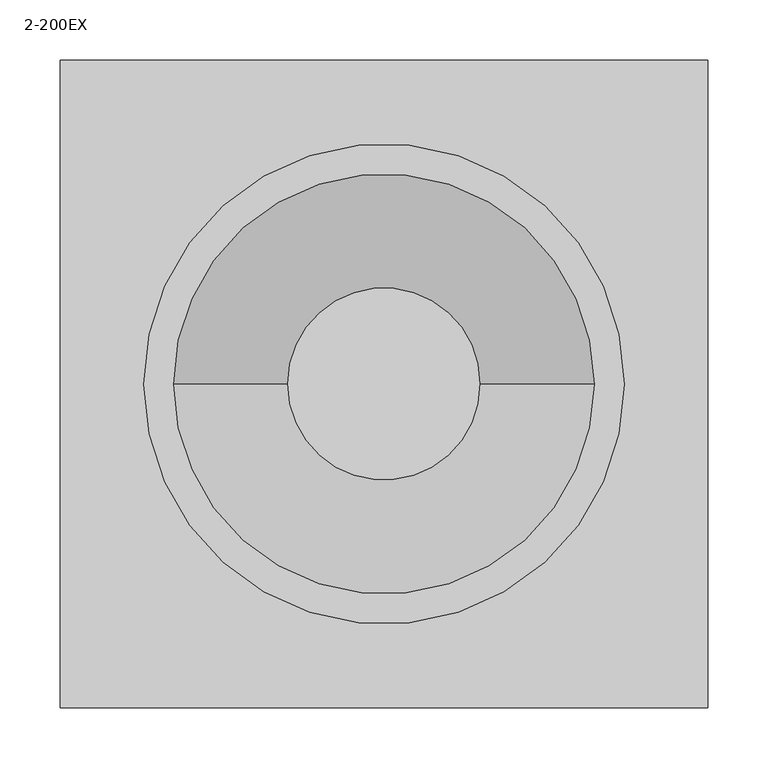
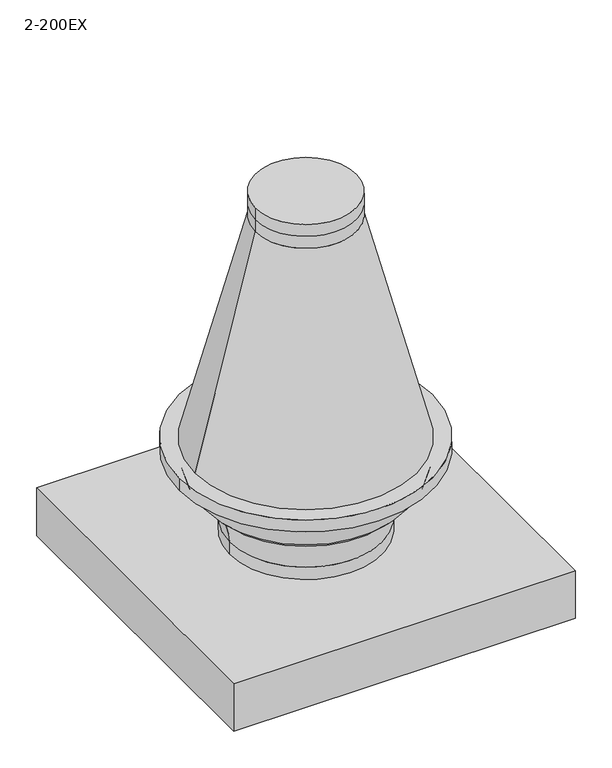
"""IFC4 building model written with IfcOpenShell, lengths in millimetres: unitary equipment geometry, VE-Wentylator-ParaForma-Harmann-VITT_EX-Wywiewny : 2-200EX."""

from ifc_helpers import new_model, si_unit, point, frame, origin, origin_2d, place, context, project, spatial, polyline, circle_curve, ellipse_curve, trimmed, segment, composite_curve, outline, extrude, faceted_brep, source, transform, mapped, element, save
from ifc_brep_helpers import plane_surface, cylinder_surface, revolved_surface, advanced_brep


def unitary_equipment_2_200ex_09cd0da0(model_context):
    return source(origin(), model_context, "Body", "SolidModel", [
        advanced_brep(
        [(-174.9, 0.0, 160.0), (174.9, 0.0, 160.0), (120.4, 0.0, 25.0), (-120.4, 0.0, 25.0), (-151.7, 0.0, 104.8), (-141.9, 0.0, 95.5), (141.9, 0.0, 95.5), (151.7, 0.0, 104.8), (-171.3, 0.0, 140.8), (171.3, 0.0, 140.8), (-120.4, 0.0, 45.5), (120.4, 0.0, 45.5)],
        [
            (0, 1, circle_curve(frame((0.0, 0.0, 160.0), z_axis=(0.0, 0.0, 1.0), x_axis=(1.0, 0.0, 0.0)), 174.9)),
            (1, 0, circle_curve(frame((0.0, 0.0, 160.0), z_axis=(0.0, 0.0, 1.0), x_axis=(1.0, 0.0, 0.0)), 174.9)),
            (2, 3, circle_curve(frame((0.0, 0.0, 25.0), z_axis=(0.0, 0.0, -1.0), x_axis=(1.0, 0.0, 0.0)), 120.4)),
            (3, 2, circle_curve(frame((0.0, 0.0, 25.0), z_axis=(0.0, 0.0, -1.0), x_axis=(1.0, 0.0, 0.0)), 120.4)),
            (4, 5),
            (5, 6, circle_curve(frame((0.0, 0.0, 95.5), z_axis=(0.0, 0.0, 1.0), x_axis=(1.0, 0.0, 0.0)), 141.9)),
            (6, 7),
            (7, 4, circle_curve(frame((0.0, 0.0, 104.8), z_axis=(0.0, 0.0, -1.0), x_axis=(1.0, 0.0, 0.0)), 151.7)),
            (4, 7, circle_curve(frame((0.0, 0.0, 104.8), z_axis=(0.0, 0.0, -1.0), x_axis=(1.0, 0.0, 0.0)), 151.7)),
            (6, 5, circle_curve(frame((0.0, 0.0, 95.5), z_axis=(0.0, 0.0, 1.0), x_axis=(1.0, 0.0, 0.0)), 141.9)),
            (0, 8),
            (8, 9, circle_curve(frame((0.0, 0.0, 140.8), z_axis=(0.0, 0.0, 1.0), x_axis=(1.0, 0.0, 0.0)), 171.3)),
            (9, 1),
            (9, 8, circle_curve(frame((0.0, 0.0, 140.8), z_axis=(0.0, 0.0, 1.0), x_axis=(1.0, 0.0, 0.0)), 171.3)),
            (10, 3),
            (2, 11),
            (11, 10, circle_curve(frame((0.0, 0.0, 45.5), z_axis=(0.0, 0.0, -1.0), x_axis=(1.0, 0.0, 0.0)), 120.4)),
            (10, 11, circle_curve(frame((0.0, 0.0, 45.5), z_axis=(0.0, 0.0, -1.0), x_axis=(1.0, 0.0, 0.0)), 120.4)),
            (5, 10, circle_curve(frame((-189.3899586, 0.0, 45.4568178), z_axis=(0.0, 1.0, 0.0), x_axis=(1.0, 0.0, 0.0)), 68.9899721)),
            (11, 6, circle_curve(frame((189.3899586, 0.0, 45.4568178), z_axis=(0.0, 1.0, 0.0), x_axis=(-1.0, 0.0, 0.0)), 68.9899721)),
            (7, 9, circle_curve(frame((105.882829, 0.0, 153.0804598), z_axis=(0.0, -1.0, 0.0), x_axis=(-1.0, 0.0, 0.0)), 66.5598674)),
            (8, 4, circle_curve(frame((-105.882829, 0.0, 153.0804598), z_axis=(0.0, -1.0, 0.0), x_axis=(1.0, 0.0, 0.0)), 66.5598674)),
        ],
        [
            plane_surface(frame((0.0, 0.0, 160.0), z_axis=(0.0, 0.0, 1.0), x_axis=(0.0, -1.0, 0.0))),
            plane_surface(frame((0.0, 0.0, 25.0), z_axis=(0.0, 0.0, -1.0), x_axis=(0.0, -1.0, 0.0))),
            revolved_surface(polyline([(151.7, 0.0, 104.8), (141.9, 0.0, 95.5)]), (0.0, 0.0, 25.0), (0.0, 0.0, -1.0)),
            revolved_surface(polyline([(174.9, 0.0, 160.0), (171.3, 0.0, 140.8)]), (0.0, 0.0, 25.0), (0.0, 0.0, -1.0)),
            cylinder_surface(frame((0.0, 0.0, 25.0), z_axis=(0.0, 0.0, -1.0), x_axis=(1.0, 0.0, 0.0)), 120.4),
            revolved_surface(trimmed(ellipse_curve(frame((189.3899586, 0.0, 45.4568178), z_axis=(0.0, -1.0, 0.0), x_axis=(-1.0, 0.0, 0.0)), 68.9899721, 68.9899721), [point((141.9, 0.0, 95.5))], [point((120.4, 0.0, 45.5))], True, "CARTESIAN"), (0.0, 0.0, 25.0), (0.0, 0.0, -1.0)),
            revolved_surface(trimmed(ellipse_curve(frame((105.882829, 0.0, 153.0804598), z_axis=(0.0, 1.0, 0.0), x_axis=(-1.0, 0.0, 0.0)), 66.5598674, 66.5598674), [point((171.3, 0.0, 140.8))], [point((151.7, 0.0, 104.8))], True, "CARTESIAN"), (0.0, 0.0, 25.0), (0.0, 0.0, -1.0)),
        ],
        [
            (0, [[1, 2]]),
            (1, [[3, 4]]),
            (2, [[5, 6, 7, 8]]),
            (2, [[-5, 9, -7, 10]]),
            (3, [[11, 12, 13, -1]]),
            (3, [[-11, -2, -13, 14]]),
            (4, [[15, -3, 16, 17]]),
            (4, [[-15, 18, -16, -4]]),
            (5, [[-6, 19, -17, 20]]),
            (5, [[-10, -20, -18, -19]]),
            (6, [[-8, 21, -12, 22]]),
            (6, [[-9, -22, -14, -21]]),
        ],
    ),
        advanced_brep(
        [(-175.0, 0.0, 180.0), (175.0, 0.0, 180.0), (80.0, 0.0, 550.0), (-80.0, 0.0, 550.0), (-80.0, 0.0, 570.0), (80.0, 0.0, 570.0), (-80.0, 0.0, 590.0), (80.0, 0.0, 590.0)],
        [
            (0, 1, circle_curve(frame((0.0, 0.0, 180.0), z_axis=(0.0, 0.0, -1.0), x_axis=(1.0, 0.0, 0.0)), 175.0)),
            (1, 0, circle_curve(frame((0.0, 0.0, 180.0), z_axis=(0.0, 0.0, -1.0), x_axis=(-1.0, 0.0, 0.0)), 175.0)),
            (1, 2),
            (2, 3, circle_curve(frame((0.0, 0.0, 550.0), z_axis=(0.0, 0.0, -1.0), x_axis=(-1.0, 0.0, 0.0)), 80.0)),
            (3, 0),
            (3, 2, circle_curve(frame((0.0, 0.0, 550.0), z_axis=(0.0, 0.0, -1.0), x_axis=(1.0, 0.0, 0.0)), 80.0)),
            (3, 4),
            (4, 5, circle_curve(frame((0.0, 0.0, 570.0), z_axis=(0.0, 0.0, -1.0), x_axis=(1.0, 0.0, 0.0)), 80.0)),
            (5, 2),
            (5, 4, circle_curve(frame((0.0, 0.0, 570.0), z_axis=(0.0, 0.0, -1.0), x_axis=(1.0, 0.0, 0.0)), 80.0)),
            (6, 7, circle_curve(frame((0.0, 0.0, 590.0), z_axis=(0.0, 0.0, 1.0), x_axis=(1.0, 0.0, 0.0)), 80.0)),
            (7, 6, circle_curve(frame((0.0, 0.0, 590.0), z_axis=(0.0, 0.0, 1.0), x_axis=(1.0, 0.0, 0.0)), 80.0)),
            (7, 5),
            (4, 6),
        ],
        [
            plane_surface(frame((0.0, 0.0, 180.0), z_axis=(0.0, 0.0, -1.0), x_axis=(0.0, -1.0, 0.0))),
            revolved_surface(polyline([(-80.00000000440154, 0.0, 550.0), (-175.0, 0.0, 180.0)]), (0.0, 0.0, 861.5789474), (0.0, 0.0, -1.0)),
            revolved_surface(polyline([(80.00000000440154, 0.0, 550.0), (175.0, 0.0, 180.0)]), (0.0, 0.0, 861.5789474), (0.0, 0.0, -1.0)),
            cylinder_surface(frame((0.0, 0.0, 550.0), z_axis=(0.0, 0.0, -1.0), x_axis=(1.0, 0.0, 0.0)), 80.0),
            plane_surface(frame((0.0, 0.0, 590.0), z_axis=(0.0, 0.0, 1.0), x_axis=(0.0, 1.0, 0.0))),
        ],
        [
            (0, [[1, 2]]),
            (1, [[-2, 3, 4, 5]]),
            (2, [[-1, -5, 6, -3]]),
            (3, [[7, 8, 9, -6]]),
            (3, [[-7, -4, -9, 10]]),
            (4, [[11, 12]]),
            (3, [[-12, 13, -8, 14]]),
            (3, [[-11, -14, -10, -13]]),
        ],
    ),
        faceted_brep([(244.8, -244.8, -55.0), (244.8, -244.8, 0.0), (244.8, 244.8, 0.0), (244.8, 244.8, -55.0), (269.8, -269.8, 25.0), (269.8, -269.8, -55.0), (269.8, 269.8, -55.0), (269.8, 269.8, 25.0), (-244.8, 244.8, 0.0), (-244.8, 244.8, -55.0), (-269.8, 269.8, -55.0), (-269.8, 269.8, 25.0), (-244.8, -244.8, 0.0), (-244.8, -244.8, -55.0), (-269.8, -269.8, -55.0), (-269.8, -269.8, 25.0)], [[[0, 1, 2, 3]], [[4, 5, 6, 7]], [[3, 2, 8, 9]], [[7, 6, 10, 11]], [[9, 8, 12, 13]], [[11, 10, 14, 15]], [[7, 11, 15, 4]], [[1, 12, 8, 2]], [[13, 12, 1, 0]], [[5, 14, 10, 6], [3, 9, 13, 0]], [[15, 14, 5, 4]]]),
        extrude(outline(composite_curve([segment(trimmed(circle_curve(origin_2d(), 200.0), [point((-200.0, 0.0))], [point((200.0, 0.0))], False, "CARTESIAN"), True, "CONTINUOUS"), segment(trimmed(circle_curve(origin_2d(), 200.0), [point((200.0, 0.0))], [point((-200.0, 0.0))], False, "CARTESIAN"), True, "CONTINUOUS")], self_intersect=False)), frame((0.0, 0.0, 160.0), z_axis=(0.0, 0.0, 1.0), x_axis=(1.0, 0.0, 0.0)), (0.0, 0.0, 1.0), 20.0),
    ])


if __name__ == "__main__":
    model = new_model("IFC4")
    model_context = context("Model", 3, world=origin())
    ifc_project = project(units=[si_unit("LENGTHUNIT", "METRE", prefix="MILLI")], contexts=[model_context])
    site = spatial("IfcSite", under=ifc_project)
    building = spatial("IfcBuilding", under=site)
    placement = place(None, origin())
    unitary_equipment_2_200ex_shape = unitary_equipment_2_200ex_09cd0da0(model_context)
    element("IfcUnitaryEquipment", 1, ObjectType="VE-Wentylator-ParaForma-Harmann-VITT_EX-Wywiewny : 2-200EX", at=placement, inside=building, context=model_context, shape_type="MappedRepresentation", body=[
        mapped(unitary_equipment_2_200ex_shape, transform((0.0, 0.0, 0.0), x_axis=(1.0, 0.0, 0.0), y_axis=(0.0, 1.0, 0.0), z_axis=(0.0, 0.0, 1.0))),
    ])
    save(model, "model.ifc")
